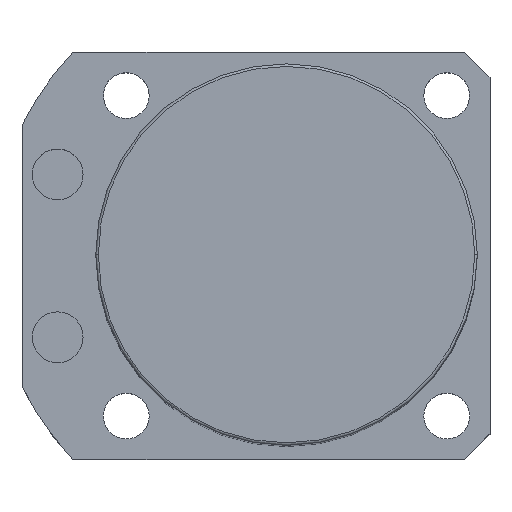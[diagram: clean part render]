
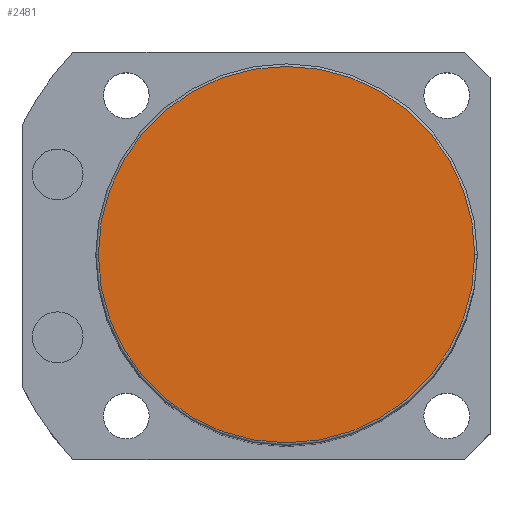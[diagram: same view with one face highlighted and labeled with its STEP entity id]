
A CAD part, top view. The second image highlights one B-rep face of the part: STEP entity #2481.
In plain terms, the highlighted planar face has unit normal (0, 0, 1).
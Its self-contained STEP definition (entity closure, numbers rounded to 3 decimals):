
#148 = ORIENTED_EDGE ( 'NONE', *, *, #1948, .T. ) ;
#450 = EDGE_LOOP ( 'NONE', ( #148, #5223 ) ) ;
#795 = CARTESIAN_POINT ( 'NONE',  ( 37., 0., 160.5 ) ) ;
#1617 = AXIS2_PLACEMENT_3D ( 'NONE', #3399, #3354, #1797 ) ;
#1705 = DIRECTION ( 'NONE',  ( 0., 0., 1. ) ) ;
#1707 = CARTESIAN_POINT ( 'NONE',  ( -37., 0., 160.5 ) ) ;
#1797 = DIRECTION ( 'NONE',  ( 1., 0., 0. ) ) ;
#1871 = CARTESIAN_POINT ( 'NONE',  ( 0., 0., 160.5 ) ) ;
#1948 = EDGE_CURVE ( 'NONE', #5050, #5534, #5175, .T. ) ;
#2152 = AXIS2_PLACEMENT_3D ( 'NONE', #1871, #2309, #5919 ) ;
#2309 = DIRECTION ( 'NONE',  ( 0., 0., 1. ) ) ;
#2481 = ADVANCED_FACE ( 'NONE', ( #2905 ), #4904, .T. ) ;
#2905 = FACE_OUTER_BOUND ( 'NONE', #450, .T. ) ;
#3354 = DIRECTION ( 'NONE',  ( 0., 0., 1. ) ) ;
#3399 = CARTESIAN_POINT ( 'NONE',  ( 0., 0., 160.5 ) ) ;
#3791 = EDGE_CURVE ( 'NONE', #5534, #5050, #5365, .T. ) ;
#3868 = AXIS2_PLACEMENT_3D ( 'NONE', #5269, #1705, #4817 ) ;
#4817 = DIRECTION ( 'NONE',  ( 1., 0., 0. ) ) ;
#4904 = PLANE ( 'NONE',  #1617 ) ;
#5050 = VERTEX_POINT ( 'NONE', #795 ) ;
#5175 = CIRCLE ( 'NONE', #3868, 37. ) ;
#5223 = ORIENTED_EDGE ( 'NONE', *, *, #3791, .T. ) ;
#5269 = CARTESIAN_POINT ( 'NONE',  ( 0., 0., 160.5 ) ) ;
#5365 = CIRCLE ( 'NONE', #2152, 37. ) ;
#5534 = VERTEX_POINT ( 'NONE', #1707 ) ;
#5919 = DIRECTION ( 'NONE',  ( 1., 0., 0. ) ) ;
